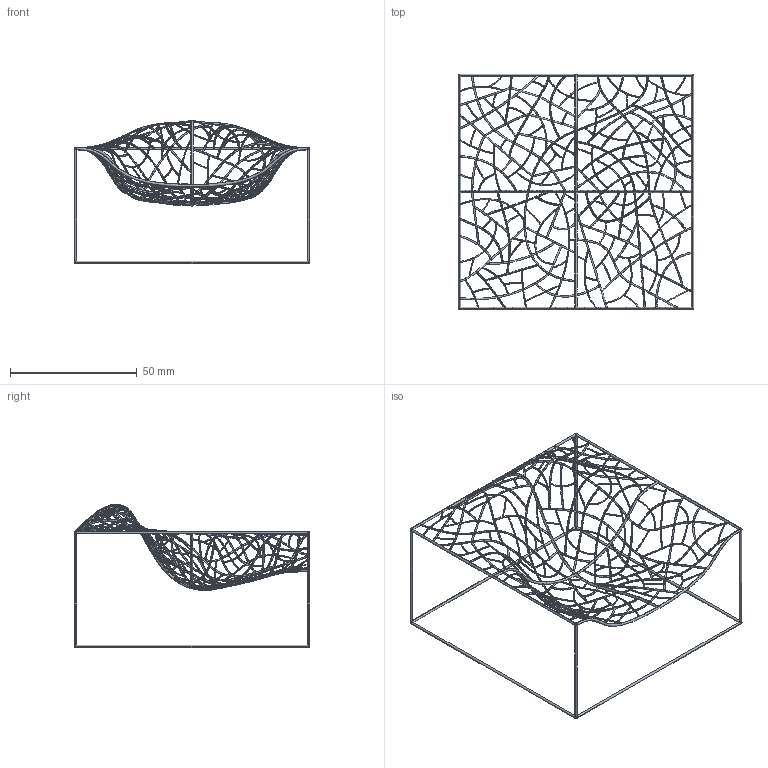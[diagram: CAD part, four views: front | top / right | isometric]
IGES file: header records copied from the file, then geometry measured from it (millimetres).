
Start section: SolidWorks IGES FILE using analytic representation for surfaces
Global section: file name: Y:\VICCARBE 2006 TECNICO\DESARROLLO PRODUCTO\DISEÑOS\DISEÑOS 2006\MASSAUD\AD-HOC\SOLID\WP_VB_CAO_3D_01.IGS; native system: SolidWorks 2004 by SolidWorks Corporation; preprocessor: Version 5.3; author: DAVID204; date: 061128.095721; units: millimetre
Bounding box: 92.97 x 92.97 x 56.5 mm (x, y, z)
Surface area: 8747.5 mm2 (no closed solid volume)
Topology: 0 solids, 0 shells, 567 faces, 9491 edges, 9489 vertices
Faces by surface type: bspline 545, revolution 22
